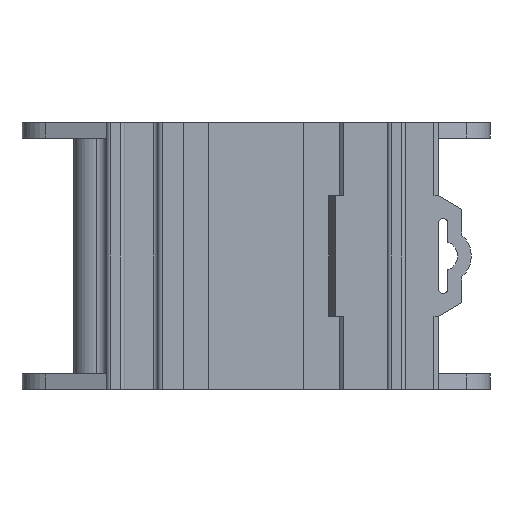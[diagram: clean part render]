
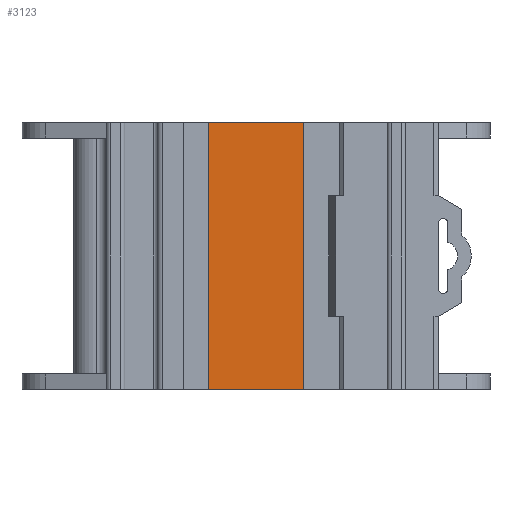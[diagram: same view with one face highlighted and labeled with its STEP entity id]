
A CAD part, front view. The second image highlights one B-rep face of the part: STEP entity #3123.
In plain terms, the highlighted planar face has unit normal (0, -1, 0).
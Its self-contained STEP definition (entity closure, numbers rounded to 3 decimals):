
#139=PLANE('',#3378);
#289=FACE_OUTER_BOUND('',#460,.T.);
#460=EDGE_LOOP('',(#2860,#2861,#2862,#2863));
#535=LINE('',#4403,#912);
#597=LINE('',#4555,#974);
#839=LINE('',#5107,#1216);
#840=LINE('',#5108,#1217);
#912=VECTOR('',#3523,10.);
#974=VECTOR('',#3645,10.);
#1216=VECTOR('',#4179,10.);
#1217=VECTOR('',#4180,10.);
#1379=VERTEX_POINT('',#4400);
#1380=VERTEX_POINT('',#4402);
#1439=VERTEX_POINT('',#4552);
#1440=VERTEX_POINT('',#4554);
#1681=EDGE_CURVE('',#1380,#1379,#535,.T.);
#1756=EDGE_CURVE('',#1439,#1440,#597,.T.);
#2033=EDGE_CURVE('',#1440,#1379,#839,.T.);
#2034=EDGE_CURVE('',#1380,#1439,#840,.T.);
#2860=ORIENTED_EDGE('',*,*,#1681,.T.);
#2861=ORIENTED_EDGE('',*,*,#2033,.F.);
#2862=ORIENTED_EDGE('',*,*,#1756,.F.);
#2863=ORIENTED_EDGE('',*,*,#2034,.F.);
#3123=ADVANCED_FACE('',(#289),#139,.F.);
#3378=AXIS2_PLACEMENT_3D('',#5106,#4177,#4178);
#3523=DIRECTION('',(-1.,0.,0.));
#3645=DIRECTION('',(-1.,0.,0.));
#4177=DIRECTION('center_axis',(0.,1.,0.));
#4178=DIRECTION('ref_axis',(1.,0.,0.));
#4179=DIRECTION('',(0.,0.,1.));
#4180=DIRECTION('',(0.,0.,-1.));
#4400=CARTESIAN_POINT('',(-12.172,-25.,0.));
#4402=CARTESIAN_POINT('',(12.172,-25.,0.));
#4403=CARTESIAN_POINT('',(-6.086,-25.,0.));
#4552=CARTESIAN_POINT('',(12.172,-25.,-57.));
#4554=CARTESIAN_POINT('',(-12.172,-25.,-57.));
#4555=CARTESIAN_POINT('',(-6.086,-25.,-57.));
#5106=CARTESIAN_POINT('Origin',(-12.172,-25.,3.3));
#5107=CARTESIAN_POINT('',(-12.172,-25.,-53.7));
#5108=CARTESIAN_POINT('',(12.172,-25.,-53.7));
